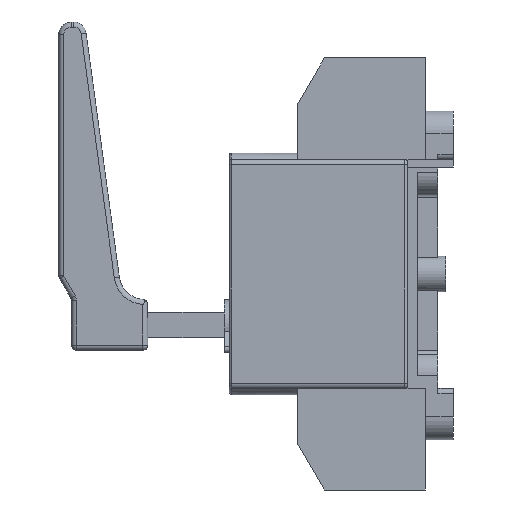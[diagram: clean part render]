
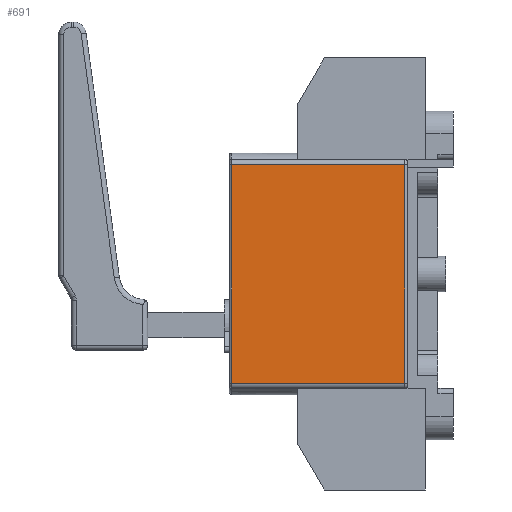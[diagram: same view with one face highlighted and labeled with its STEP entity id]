
A CAD part, left-side view. The second image highlights one B-rep face of the part: STEP entity #691.
In plain terms, the highlighted planar face has unit normal (-1, 0, 0).
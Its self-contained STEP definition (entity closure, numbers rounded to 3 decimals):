
#193=PLANE('',#7165);
#691=ADVANCED_FACE('',(#1133),#193,.F.);
#1133=FACE_OUTER_BOUND('',#1555,.T.);
#1555=EDGE_LOOP('',(#3251,#3252,#3253,#3254));
#3251=ORIENTED_EDGE('',*,*,#5243,.F.);
#3252=ORIENTED_EDGE('',*,*,#5230,.T.);
#3253=ORIENTED_EDGE('',*,*,#5244,.T.);
#3254=ORIENTED_EDGE('',*,*,#4933,.T.);
#4203=VERTEX_POINT('',#10166);
#4207=VERTEX_POINT('',#10175);
#4396=VERTEX_POINT('',#10858);
#4400=VERTEX_POINT('',#10890);
#4933=EDGE_CURVE('',#4203,#4207,#5769,.T.);
#5230=EDGE_CURVE('',#4396,#4400,#5925,.T.);
#5243=EDGE_CURVE('',#4396,#4207,#5931,.T.);
#5244=EDGE_CURVE('',#4400,#4203,#5932,.T.);
#5769=LINE('',#10176,#6364);
#5925=LINE('',#10891,#6520);
#5931=LINE('',#10942,#6526);
#5932=LINE('',#10944,#6527);
#6364=VECTOR('',#8109,1.);
#6520=VECTOR('',#8757,1.);
#6526=VECTOR('',#8781,1.);
#6527=VECTOR('',#8784,1.);
#7165=AXIS2_PLACEMENT_3D('',#10945,#8785,#8786);
#8109=DIRECTION('',(0.,0.,1.));
#8757=DIRECTION('',(0.,0.,-1.));
#8781=DIRECTION('',(0.,-1.,0.));
#8784=DIRECTION('',(0.,-1.,0.));
#8785=DIRECTION('',(1.,0.,0.));
#8786=DIRECTION('',(0.,0.,-1.));
#10166=CARTESIAN_POINT('',(-41.,1.,-43.));
#10175=CARTESIAN_POINT('',(-41.,1.,43.));
#10176=CARTESIAN_POINT('',(-41.,1.,-43.));
#10858=CARTESIAN_POINT('',(-41.,69.,43.));
#10890=CARTESIAN_POINT('',(-41.,69.,-43.));
#10891=CARTESIAN_POINT('',(-41.,69.,-43.));
#10942=CARTESIAN_POINT('',(-41.,35.,43.));
#10944=CARTESIAN_POINT('',(-41.,35.,-43.));
#10945=CARTESIAN_POINT('',(-41.,35.,-43.));
